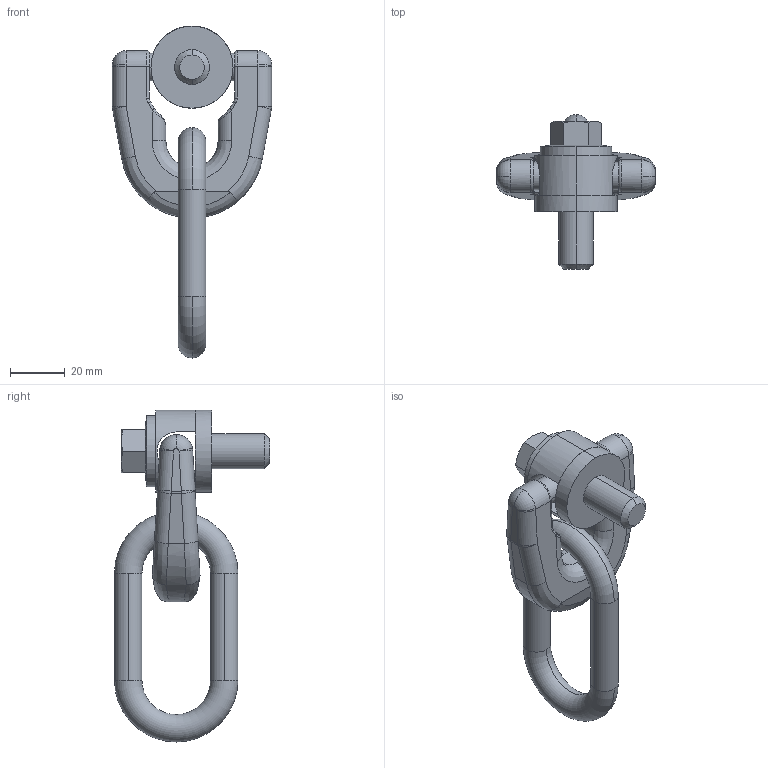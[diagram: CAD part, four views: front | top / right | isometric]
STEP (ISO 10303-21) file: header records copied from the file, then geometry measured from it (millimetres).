
FILE_DESCRIPTION (( 'STEP AP203' ), '1' );
FILE_NAME ('63150.W0250.step', '2013-12-13T11:54:51', ( 'User' ), ( '' ), 'SwSTEP 2.0', 'SolidWorks 2009', '' );
FILE_SCHEMA (( 'CONFIG_CONTROL_DESIGN' ));
Length unit declared in the file: millimetre
Products named in the file (4): Part1_63150.W0250; 63150.W0250; Part2A; Part3_63150.W0250
Assembly tree (3 placements, depth 2):
  63150.W0250
    Part2A
    Part3_63150.W0250
    Part1_63150.W0250
Bounding box: 58 x 56.5 x 121 mm (x, y, z)
Volume: 58897 mm3; surface area: 19477.9 mm2
Topology: 3 solids, 3 shells, 133 faces, 319 edges, 190 vertices
Faces by surface type: cylinder 41, bspline 33, plane 33, torus 12, cone 10, sphere 4
Entity records: 5631 total; most frequent: CARTESIAN_POINT 2363, ORIENTED_EDGE 634, DIRECTION 582, EDGE_CURVE 317, AXIS2_PLACEMENT_3D 237, VERTEX_POINT 190, EDGE_LOOP 137, ADVANCED_FACE 133
